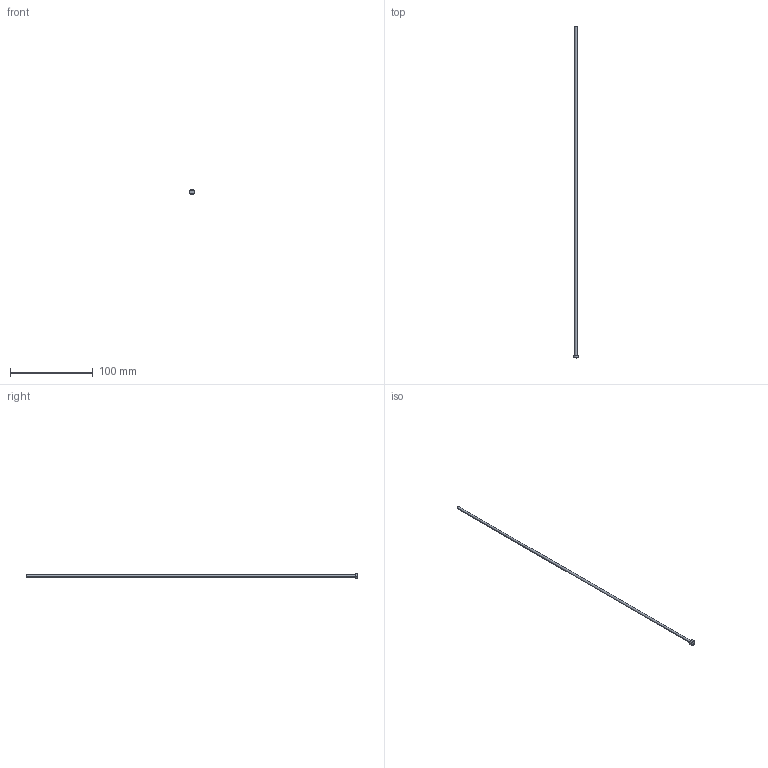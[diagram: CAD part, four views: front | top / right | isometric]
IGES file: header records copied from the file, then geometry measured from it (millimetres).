
Start section: SolidWorks IGES file using analytic representation for surfaces
Global section: file name: C:\Users\User\Downloads\Matripeça 31-08 tar\PB - PINO EXTRATOR TIPO _B_ (CATÁLOGO)\PB03,0\PB03,0400.IGS; native system: SolidWorks 2024; preprocessor: SolidWorks 2024; author: User; date: 260901.141807; units: millimetre
Bounding box: 6 x 400 x 6 mm (x, y, z)
Surface area: 3858.4 mm2 (no closed solid volume)
Topology: 0 solids, 0 shells, 407 faces, 3270 edges, 3270 vertices
Faces by surface type: bspline 393, revolution 14
